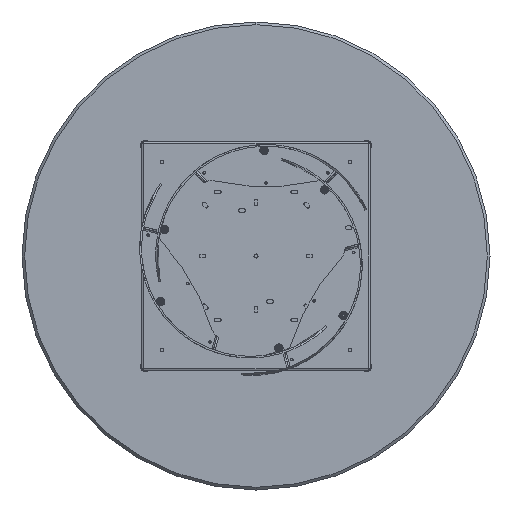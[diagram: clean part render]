
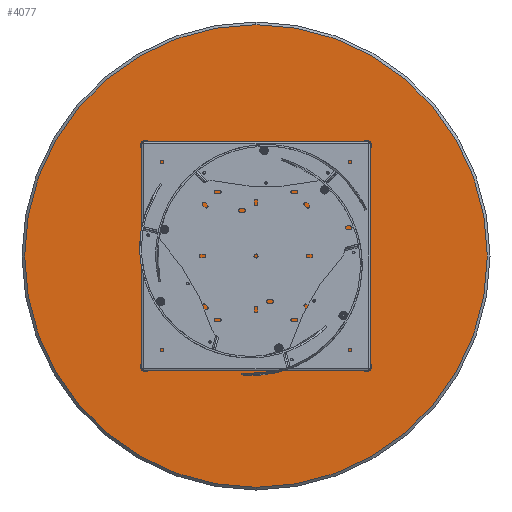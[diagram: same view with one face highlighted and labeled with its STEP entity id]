
A CAD part, front view. The second image highlights one B-rep face of the part: STEP entity #4077.
In plain terms, the highlighted planar face has unit normal (0, -1, 0).
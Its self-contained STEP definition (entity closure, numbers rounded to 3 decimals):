
#1280 = DIRECTION ( 'NONE',  ( 0., 0., -1. ) ) ;
#1468 = AXIS2_PLACEMENT_3D ( 'NONE', #11395, #14659, #6823 ) ;
#1990 = ORIENTED_EDGE ( 'NONE', *, *, #19525, .T. ) ;
#2322 = ORIENTED_EDGE ( 'NONE', *, *, #5505, .T. ) ;
#2467 = CARTESIAN_POINT ( 'NONE',  ( 0., 0., 692. ) ) ;
#2479 = PLANE ( 'NONE',  #1468 ) ;
#4077 = ADVANCED_FACE ( 'NONE', ( #12974 ), #2479, .T. ) ;
#5505 = EDGE_CURVE ( 'NONE', #15753, #5931, #9043, .T. ) ;
#5931 = VERTEX_POINT ( 'NONE', #11761 ) ;
#6244 = CIRCLE ( 'NONE', #17324, 692. ) ;
#6668 = EDGE_LOOP ( 'NONE', ( #2322, #1990 ) ) ;
#6823 = DIRECTION ( 'NONE',  ( 0., 0., -1. ) ) ;
#8789 = CARTESIAN_POINT ( 'NONE',  ( 0., 0., 0. ) ) ;
#9043 = CIRCLE ( 'NONE', #18204, 692. ) ;
#10208 = DIRECTION ( 'NONE',  ( 0., -1., 0. ) ) ;
#11395 = CARTESIAN_POINT ( 'NONE',  ( 0., 0., 0. ) ) ;
#11761 = CARTESIAN_POINT ( 'NONE',  ( 0., 0., -692. ) ) ;
#12974 = FACE_OUTER_BOUND ( 'NONE', #6668, .T. ) ;
#13162 = DIRECTION ( 'NONE',  ( 0., -1., 0. ) ) ;
#14659 = DIRECTION ( 'NONE',  ( 0., -1., 0. ) ) ;
#14747 = CARTESIAN_POINT ( 'NONE',  ( 0., 0., 0. ) ) ;
#15753 = VERTEX_POINT ( 'NONE', #2467 ) ;
#15957 = DIRECTION ( 'NONE',  ( 0., 0., -1. ) ) ;
#17324 = AXIS2_PLACEMENT_3D ( 'NONE', #8789, #13162, #1280 ) ;
#18204 = AXIS2_PLACEMENT_3D ( 'NONE', #14747, #10208, #15957 ) ;
#19525 = EDGE_CURVE ( 'NONE', #5931, #15753, #6244, .T. ) ;
